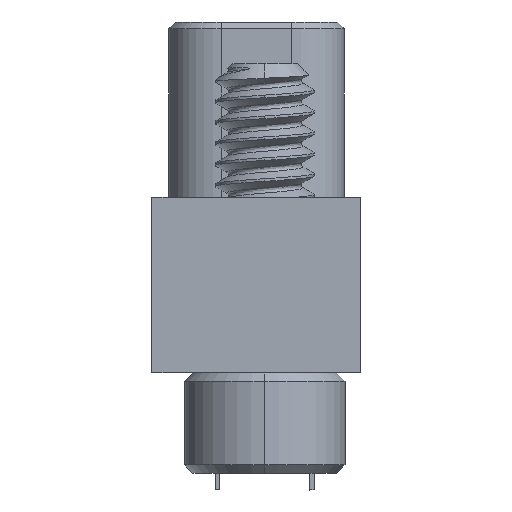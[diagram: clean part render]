
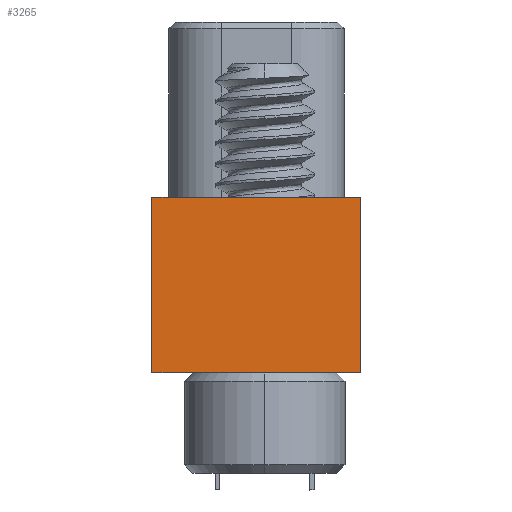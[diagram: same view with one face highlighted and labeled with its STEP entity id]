
A CAD part, left-side view. The second image highlights one B-rep face of the part: STEP entity #3265.
In plain terms, the highlighted planar face has unit normal (-1, 0, 0).
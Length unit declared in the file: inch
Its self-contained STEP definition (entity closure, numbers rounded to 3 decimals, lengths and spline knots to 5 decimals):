
#78 = VERTEX_POINT ( 'NONE', #897 ) ;
#897 = CARTESIAN_POINT ( 'NONE',  ( -0.3625, -0.0575, -0.105 ) ) ;
#1804 = EDGE_CURVE ( 'NONE', #28875, #78, #20477, .T. ) ;
#2654 = CARTESIAN_POINT ( 'NONE',  ( -0.3625, 0.0675, 0.105 ) ) ;
#3265 = ADVANCED_FACE ( 'NONE', ( #23471 ), #10382, .F. ) ;
#4691 = CARTESIAN_POINT ( 'NONE',  ( -0.3625, -0.0575, -0.105 ) ) ;
#5205 = DIRECTION ( 'NONE',  ( 1., 0., 0. ) ) ;
#6162 = LINE ( 'NONE', #30855, #31160 ) ;
#7970 = DIRECTION ( 'NONE',  ( 0., -1., 0. ) ) ;
#8758 = VERTEX_POINT ( 'NONE', #25834 ) ;
#10382 = PLANE ( 'NONE',  #12789 ) ;
#11660 = CARTESIAN_POINT ( 'NONE',  ( -0.3625, 0.0675, -0.105 ) ) ;
#11728 = EDGE_CURVE ( 'NONE', #8758, #18409, #11938, .T. ) ;
#11938 = LINE ( 'NONE', #2654, #28320 ) ;
#12789 = AXIS2_PLACEMENT_3D ( 'NONE', #34171, #5205, #24099 ) ;
#14683 = DIRECTION ( 'NONE',  ( 0., 0., -1. ) ) ;
#15269 = DIRECTION ( 'NONE',  ( 0., 0., -1. ) ) ;
#15981 = CARTESIAN_POINT ( 'NONE',  ( -0.3625, -0.0575, 0. ) ) ;
#18409 = VERTEX_POINT ( 'NONE', #11660 ) ;
#18998 = DIRECTION ( 'NONE',  ( 0., -1., 0. ) ) ;
#20442 = EDGE_CURVE ( 'NONE', #18409, #78, #35506, .T. ) ;
#20477 = LINE ( 'NONE', #33513, #34212 ) ;
#23471 = FACE_OUTER_BOUND ( 'NONE', #25136, .T. ) ;
#24099 = DIRECTION ( 'NONE',  ( 0., 0., -1. ) ) ;
#24864 = VECTOR ( 'NONE', #7970, 39.37008 ) ;
#25136 = EDGE_LOOP ( 'NONE', ( #32175, #36623, #29984, #30236 ) ) ;
#25834 = CARTESIAN_POINT ( 'NONE',  ( -0.3625, 0.0675, 0. ) ) ;
#28320 = VECTOR ( 'NONE', #15269, 39.37008 ) ;
#28875 = VERTEX_POINT ( 'NONE', #15981 ) ;
#29984 = ORIENTED_EDGE ( 'NONE', *, *, #20442, .T. ) ;
#30236 = ORIENTED_EDGE ( 'NONE', *, *, #1804, .F. ) ;
#30855 = CARTESIAN_POINT ( 'NONE',  ( -0.3625, -0.0575, 0. ) ) ;
#31160 = VECTOR ( 'NONE', #18998, 39.37008 ) ;
#32175 = ORIENTED_EDGE ( 'NONE', *, *, #37952, .F. ) ;
#33513 = CARTESIAN_POINT ( 'NONE',  ( -0.3625, -0.0575, 0.105 ) ) ;
#34171 = CARTESIAN_POINT ( 'NONE',  ( -0.3625, -0.0575, 0.105 ) ) ;
#34212 = VECTOR ( 'NONE', #14683, 39.37008 ) ;
#35506 = LINE ( 'NONE', #4691, #24864 ) ;
#36623 = ORIENTED_EDGE ( 'NONE', *, *, #11728, .T. ) ;
#37952 = EDGE_CURVE ( 'NONE', #8758, #28875, #6162, .T. ) ;
